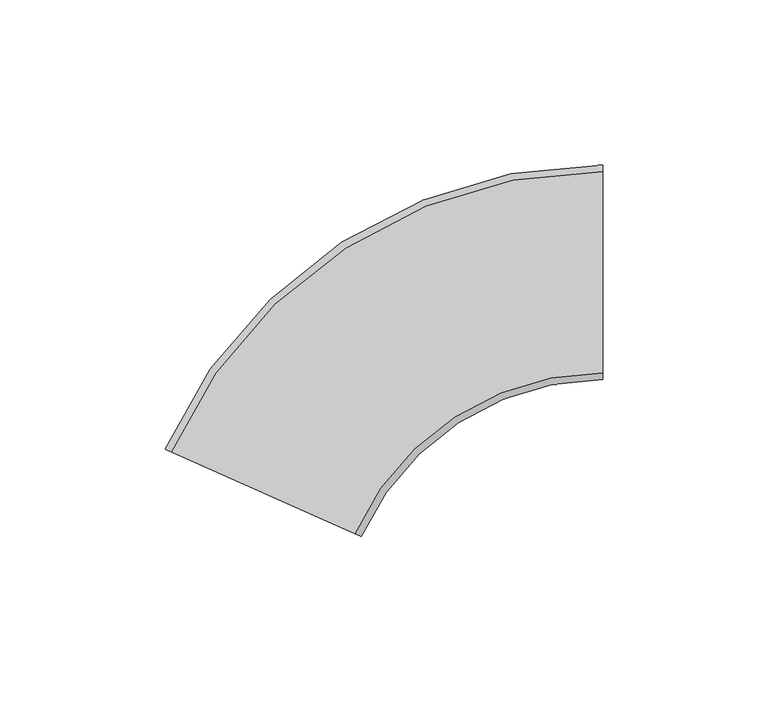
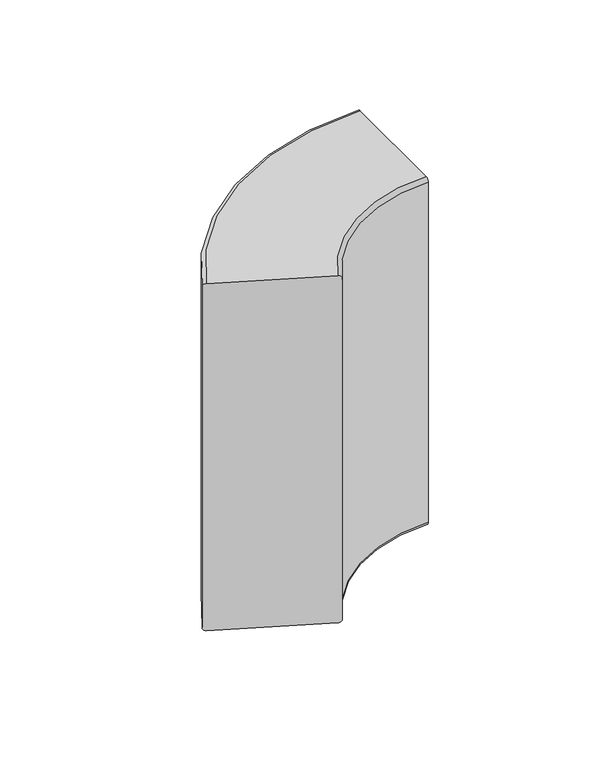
"""IFC4 building model written with IfcOpenShell, lengths in millimetres: duct fitting geometry, Угол внутренний 110 Белый : Угол Внутренний 110 Белый."""

import ifcopenshell
import ifcopenshell.guid

model = None  # the IFC model being written
_history = None  # IfcOwnerHistory: only IFC2X3 demands one
_inside = {}  # id of a spatial element -> (the spatial element, [elements in it])
_under = {}  # id of a project, library or spatial element -> (it, [spatial elements below it])
_declared = {}  # id of a project -> (the project, [libraries it declares])
_typed = {}  # id of a type object -> (the type object, [elements of that type])
_made_of = {}  # id of a material, layer set ... -> (it, [elements and type objects made of it])


def new_model(schema):
    """Start an empty IFC model of exactly this schema.

    Asked for "IFC4X3", IfcOpenShell would pick the latest addendum, in which some entities
    have other attributes; the version numbers below select the first issue.
    IFC2X3 requires an IfcOwnerHistory on every rooted entity: one is made here for all.
    """
    global model, _history
    if schema == "IFC4X3":
        model = ifcopenshell.file(schema_version=(4, 3, 0, 0))
    else:
        model = ifcopenshell.file(schema=schema)
    _inside.clear()
    _under.clear()
    _declared.clear()
    _typed.clear()
    _made_of.clear()
    _history = None
    if model.schema == "IFC2X3":
        org = make("IfcOrganization", Name="unknown")
        user = make(
            "IfcPersonAndOrganization",
            ThePerson=make("IfcPerson", FamilyName="unknown"),
            TheOrganization=org,
        )
        app = make(
            "IfcApplication",
            ApplicationDeveloper=org,
            Version="unknown",
            ApplicationFullName="unknown",
            ApplicationIdentifier="unknown",
        )
        _history = make(
            "IfcOwnerHistory",
            OwningUser=user,
            OwningApplication=app,
            ChangeAction="ADDED",
            CreationDate=0,
        )
    return model


def make(cls, **values):
    """One entity of the class cls with the attributes given. An attribute that is None is left unset."""
    return model.create_entity(
        cls, **{name: value for name, value in values.items() if value is not None}
    )


def rooted(cls, **values):
    """An entity with a GlobalId (a new one), such as an element, a storey or a relation."""
    return make(cls, GlobalId=ifcopenshell.guid.new(), OwnerHistory=_history, **values)


def si_unit(unit_type, name, prefix=None):
    """IfcSIUnit, for example si_unit("LENGTHUNIT", "METRE", prefix="MILLI")."""
    return make("IfcSIUnit", UnitType=unit_type, Prefix=prefix, Name=name)


def assignment(units):
    """IfcUnitAssignment: the units of a project."""
    return None if units is None else make("IfcUnitAssignment", Units=units)


def point(xyz):
    """IfcCartesianPoint."""
    return None if xyz is None else make("IfcCartesianPoint", Coordinates=xyz)


def direction(xyz):
    """IfcDirection."""
    return None if xyz is None else make("IfcDirection", DirectionRatios=xyz)


def frame(location, z_axis=None, x_axis=None):
    """IfcAxis2Placement3D, a coordinate frame: its origin and axes. An axis left out is left unset."""
    return make(
        "IfcAxis2Placement3D",
        Location=point(location),
        Axis=direction(z_axis),
        RefDirection=direction(x_axis),
    )


def origin():
    """The frame at (0, 0, 0) with its axes left unset."""
    return frame((0.0, 0.0, 0.0))


def place(relative_to, where):
    """IfcLocalPlacement: puts the frame where relative to a parent placement (None: the world)."""
    return make(
        "IfcLocalPlacement", PlacementRelTo=relative_to, RelativePlacement=where
    )


def context(
    kind, dimensions, precision=None, world=None, true_north=None, identifier=None
):
    """IfcGeometricRepresentationContext, for example the 3D "Model" context."""
    return make(
        "IfcGeometricRepresentationContext",
        ContextIdentifier=identifier,
        ContextType=kind,
        CoordinateSpaceDimension=dimensions,
        Precision=precision,
        WorldCoordinateSystem=world,
        TrueNorth=true_north,
    )


def project(units=None, contexts=None):
    """IfcProject with its units and contexts."""
    return rooted(
        "IfcProject",
        Name="project",
        RepresentationContexts=contexts,
        UnitsInContext=assignment(units),
    )


def spatial(cls, under=None, at=None, **own):
    """A site, building, storey or space (cls), placed at a placement, below another one or the project."""
    s = rooted(cls, ObjectPlacement=at, **own)
    if under is not None:
        _under.setdefault(under.id(), (under, []))[1].append(s)
    return s


def polyline(points):
    """IfcPolyline through the points."""
    return make("IfcPolyline", Points=[point(p) for p in points])


def circle_curve(where, radius):
    """IfcCircle in the frame where."""
    return make("IfcCircle", Position=where, Radius=radius)


def ellipse_curve(where, semi_axis1, semi_axis2):
    """IfcEllipse in the frame where."""
    return make(
        "IfcEllipse", Position=where, SemiAxis1=semi_axis1, SemiAxis2=semi_axis2
    )


def trimmed(basis, trim1, trim2, sense, master):
    """IfcTrimmedCurve: the piece of a basis curve between two trims."""
    return make(
        "IfcTrimmedCurve",
        BasisCurve=basis,
        Trim1=trim1,
        Trim2=trim2,
        SenseAgreement=sense,
        MasterRepresentation=master,
    )


def shape(context_of_items, identifier, shape_type, items):
    """IfcShapeRepresentation: the items that make up one representation, for example the "Body"."""
    return make(
        "IfcShapeRepresentation",
        ContextOfItems=context_of_items,
        RepresentationIdentifier=identifier,
        RepresentationType=shape_type,
        Items=items,
    )


def source(mapping_origin, context_of_items, identifier, shape_type, items):
    """IfcRepresentationMap: a shape defined once, which mapped items show again and again."""
    return make(
        "IfcRepresentationMap",
        MappingOrigin=mapping_origin,
        MappedRepresentation=shape(context_of_items, identifier, shape_type, items),
    )


def transform(
    local_origin,
    x_axis=None,
    y_axis=None,
    z_axis=None,
    scale=None,
    scale2=None,
    scale3=None,
    uniform=True,
):
    """IfcCartesianTransformationOperator3D, or its non-uniform kind. x_axis, y_axis, z_axis: its Axis1, 2, 3."""
    if uniform:
        return make(
            "IfcCartesianTransformationOperator3D",
            Axis1=direction(x_axis),
            Axis2=direction(y_axis),
            LocalOrigin=point(local_origin),
            Scale=scale,
            Axis3=direction(z_axis),
        )
    return make(
        "IfcCartesianTransformationOperator3DnonUniform",
        Axis1=direction(x_axis),
        Axis2=direction(y_axis),
        LocalOrigin=point(local_origin),
        Scale=scale,
        Axis3=direction(z_axis),
        Scale2=scale2,
        Scale3=scale3,
    )


def mapped(mapping_source, mapping_target):
    """IfcMappedItem: shows the shape of a source again, moved by a transform."""
    return make(
        "IfcMappedItem", MappingSource=mapping_source, MappingTarget=mapping_target
    )


def made_of(thing, what):
    """Note that an element or type object is made of a material, layer set ...; save() writes the relation."""
    if what is not None:
        _made_of.setdefault(what.id(), (what, []))[1].append(thing)
    return thing


def element(
    cls,
    number,
    at=None,
    inside=None,
    cuts=None,
    type_object=None,
    material=None,
    context=None,
    identifier="Body",
    shape_type=None,
    held_by="IfcProductDefinitionShape",
    body=None,
    shapes=None,
    **own,
):
    """One element of the class cls, such as IfcWall. Its Tag is "e" and its number.

    at: its placement. inside: the storey or other place that contains it. cuts: it is an
    opening in that element (IfcRelVoidsElement). A single representation is given by context,
    identifier, shape_type and body (its items); several are given by shapes. held_by: the class
    of the entity that holds the representations. save() writes the other relations.
    """
    e = rooted(cls, Tag="e%d" % number, ObjectPlacement=at, **own)
    if body is not None:
        shapes = [shape(context, identifier, shape_type, body)]
    if shapes is not None:
        e.Representation = make(held_by, Representations=shapes)
    if inside is not None:
        _inside.setdefault(inside.id(), (inside, []))[1].append(e)
    if cuts is not None:
        rooted(
            "IfcRelVoidsElement", RelatingBuildingElement=cuts, RelatedOpeningElement=e
        )
    if type_object is not None:
        _typed.setdefault(type_object.id(), (type_object, []))[1].append(e)
    return made_of(e, material)


def aggregate(whole, parts):
    """IfcRelAggregates: a whole, such as a stair, and the parts it consists of."""
    return rooted("IfcRelAggregates", RelatingObject=whole, RelatedObjects=parts)


def save(model, path):
    """Write the relations noted so far, then the file.

    IfcRelAggregates (storeys below a building ...), IfcRelContainedInSpatialStructure (elements
    in a storey), IfcRelDefinesByType, IfcRelAssociatesMaterial and IfcRelDeclares: one each for
    every whole, place, type object, material and project.
    """
    for whole, parts in _under.values():
        aggregate(whole, parts)
    for where, things in _inside.values():
        rooted(
            "IfcRelContainedInSpatialStructure",
            RelatedElements=things,
            RelatingStructure=where,
        )
    for kind, things in _typed.values():
        rooted("IfcRelDefinesByType", RelatedObjects=things, RelatingType=kind)
    for what, things in _made_of.values():
        rooted("IfcRelAssociatesMaterial", RelatedObjects=things, RelatingMaterial=what)
    for by, libraries in _declared.values():
        rooted("IfcRelDeclares", RelatingContext=by, RelatedDefinitions=libraries)
    model.write(path)


def plane_surface(at):
    """IfcPlane: the flat surface through the origin of the frame at, square to its z axis."""
    return make("IfcPlane", Position=at)


def cylinder_surface(at, radius):
    """IfcCylindricalSurface: all points at the distance radius from the z axis of the frame at."""
    return make("IfcCylindricalSurface", Position=at, Radius=radius)


def revolved_surface(curve, axis_point, axis_direction):
    """IfcSurfaceOfRevolution: the curve turned about the line through axis_point along axis_direction."""
    return make(
        "IfcSurfaceOfRevolution",
        SweptCurve=make("IfcArbitraryOpenProfileDef", ProfileType="CURVE", Curve=curve),
        AxisPosition=make("IfcAxis1Placement", Location=point(axis_point), Axis=direction(axis_direction)),
    )


def advanced_brep(points, edges, surfaces, faces):
    """IfcAdvancedBrep: a solid bounded by faces that lie on surfaces and meet in shared edges.

    An edge is (start, end): straight between two places in points (the first is 0);
    or (start, end, curve); or (start, end, curve, False) where it runs against its curve.
    A face is (place in surfaces, loops), or (place, loops, False) where it looks against
    its surface's normal. A loop lists edges by number (the first is 1), with a minus sign
    where the edge is run from its end to its start. The first loop is the outer one.
    """
    corners = [point(p) for p in points]
    vertices = [make("IfcVertexPoint", VertexGeometry=c) for c in corners]
    made = []
    for start, end, *more in edges:
        made.append(
            make(
                "IfcEdgeCurve",
                EdgeStart=vertices[start],
                EdgeEnd=vertices[end],
                EdgeGeometry=more[0] if more else make("IfcPolyline", Points=[corners[start], corners[end]]),
                SameSense=more[1] if len(more) > 1 else True,
            )
        )
    hull = []
    for where, loops, *sense in faces:
        bounds = []
        for j, loop in enumerate(loops):
            ring = [make("IfcOrientedEdge", EdgeElement=made[abs(k) - 1], Orientation=k > 0) for k in loop]
            bounds.append(
                make(
                    "IfcFaceOuterBound" if j == 0 else "IfcFaceBound",
                    Bound=make("IfcEdgeLoop", EdgeList=ring),
                    Orientation=True,
                )
            )
        hull.append(make("IfcAdvancedFace", Bounds=bounds, FaceSurface=surfaces[where], SameSense=sense[0] if sense else True))
    return make("IfcAdvancedBrep", Outer=make("IfcClosedShell", CfsFaces=hull))


def duct_fitting_2fd834d6(model_context):
    return source(origin(), model_context, "Body", "AdvancedBrep", [
        advanced_brep(
        [(-18.1370004, -100.0945324, 97.5), (-19.9640914, -99.2810591, 95.5), (-19.9640914, -99.2810591, -95.5), (-18.1370004, -100.0945324, -97.5), (37.5892725, -124.9054676, -97.5), (39.4163634, -125.7189409, -95.5), (39.4163634, -125.7189409, 95.5), (37.5892725, -124.9054676, 97.5), (112.5, -15.2578723, 97.5), (112.5, -76.2578723, 97.5), (112.5, -78.2578723, 95.5), (112.5, -78.2578723, -95.5), (112.5, -76.2578723, -97.5), (112.5, -15.2578723, -97.5), (112.5, -13.2578723, -95.5), (112.5, -13.2578723, 95.5)],
        [
            (0, 1, circle_curve(frame((-18.1370004, -100.0945324, 95.5), z_axis=(-0.40673664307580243, -0.9135454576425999, 0.0), x_axis=(-0.9135454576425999, 0.40673664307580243, 0.0)), 2.0)),
            (1, 2),
            (2, 3, circle_curve(frame((-18.1370004, -100.0945324, -95.5), z_axis=(-0.40673664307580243, -0.9135454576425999, 0.0), x_axis=(-0.9135454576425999, 0.40673664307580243, 0.0)), 2.0)),
            (3, 4),
            (4, 5, circle_curve(frame((37.5892725, -124.9054676, -95.5), z_axis=(-0.40673664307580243, -0.9135454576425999, 0.0), x_axis=(-0.9135454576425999, 0.40673664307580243, 0.0)), 2.0)),
            (5, 6),
            (6, 7, circle_curve(frame((37.5892725, -124.9054676, 95.5), z_axis=(-0.40673664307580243, -0.9135454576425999, 0.0), x_axis=(-0.9135454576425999, 0.40673664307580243, 0.0)), 2.0)),
            (7, 0),
            (8, 9),
            (9, 10, circle_curve(frame((112.5, -76.2578723, 95.5), z_axis=(1.0, 0.0, 0.0), x_axis=(0.0, 1.0, 0.0)), 2.0)),
            (10, 11),
            (11, 12, circle_curve(frame((112.5, -76.2578723, -95.5), z_axis=(1.0, 0.0, 0.0), x_axis=(0.0, 1.0, 0.0)), 2.0)),
            (12, 13),
            (13, 14, circle_curve(frame((112.5, -15.2578723, -95.5), z_axis=(1.0, 0.0, 0.0), x_axis=(0.0, 1.0, 0.0)), 2.0)),
            (14, 15),
            (15, 8, circle_curve(frame((112.5, -15.2578723, 95.5), z_axis=(1.0, 0.0, 0.0), x_axis=(0.0, 1.0, 0.0)), 2.0)),
            (15, 1, circle_curve(frame((112.5, -158.2578723, 95.5), z_axis=(0.0, 0.0, 1.0), x_axis=(-0.9135454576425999, 0.4067366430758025, 0.0)), 145.0)),
            (0, 8, circle_curve(frame((112.5, -158.2578723, 97.5), z_axis=(0.0, 0.0, -1.0), x_axis=(-0.9135454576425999, 0.4067366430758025, 0.0)), 143.0)),
            (14, 2, circle_curve(frame((112.5, -158.2578723, -95.5), z_axis=(0.0, 0.0, 1.0), x_axis=(-0.9135454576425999, 0.4067366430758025, 0.0)), 145.0)),
            (13, 3, circle_curve(frame((112.5, -158.2578723, -97.5), z_axis=(0.0, 0.0, 1.0), x_axis=(-0.9135454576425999, 0.4067366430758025, 0.0)), 143.0)),
            (12, 4, circle_curve(frame((112.5, -158.2578723, -97.5), z_axis=(0.0, 0.0, 1.0), x_axis=(-0.9135454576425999, 0.4067366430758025, 0.0)), 82.0)),
            (11, 5, circle_curve(frame((112.5, -158.2578723, -95.5), z_axis=(0.0, 0.0, 1.0), x_axis=(-0.9135454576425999, 0.4067366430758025, 0.0)), 80.0)),
            (10, 6, circle_curve(frame((112.5, -158.2578723, 95.5), z_axis=(0.0, 0.0, 1.0), x_axis=(-0.9135454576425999, 0.4067366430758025, 0.0)), 80.0)),
            (9, 7, circle_curve(frame((112.5, -158.2578723, 97.5), z_axis=(0.0, 0.0, 1.0), x_axis=(-0.9135454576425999, 0.4067366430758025, 0.0)), 82.0)),
        ],
        [
            plane_surface(frame((9.726136, -112.5, 0.0), z_axis=(-0.40673664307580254, -0.9135454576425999, 0.0), x_axis=(0.0, 0.0, 1.0))),
            plane_surface(frame((112.5, -45.7578723, 0.0), z_axis=(1.0, 0.0, 0.0), x_axis=(0.0, 0.0, 1.0))),
            revolved_surface(trimmed(ellipse_curve(frame((-18.1370004, -100.0945324, 95.5), z_axis=(-0.40673664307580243, -0.9135454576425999, 0.0), x_axis=(-0.9135454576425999, 0.40673664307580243, 0.0)), 2.0, 2.0), [point((-18.1370004, -100.0945324, 97.5))], [point((-19.9640914, -99.2810591, 95.5))], True, "CARTESIAN"), (112.5, -158.2578723, 0.0), (0.0, 0.0, -1.0)),
            cylinder_surface(frame((112.5, -158.2578723, 0.0), z_axis=(0.0, 0.0, -1.0), x_axis=(-0.9135454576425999, 0.4067366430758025, 0.0)), 145.0),
            revolved_surface(trimmed(ellipse_curve(frame((-18.1370004, -100.0945324, -95.5), z_axis=(-0.40673664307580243, -0.9135454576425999, 0.0), x_axis=(-0.9135454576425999, 0.40673664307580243, 0.0)), 2.0, 2.0), [point((-19.9640914, -99.2810591, -95.5))], [point((-18.1370004, -100.0945324, -97.5))], True, "CARTESIAN"), (112.5, -158.2578723, 0.0), (0.0, 0.0, -1.0)),
            plane_surface(frame((112.5, -158.2578723, -97.5), z_axis=(0.0, 0.0, -1.0), x_axis=(-0.9135454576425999, 0.4067366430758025, 0.0))),
            revolved_surface(trimmed(ellipse_curve(frame((37.5892725, -124.9054676, -95.5), z_axis=(-0.40673664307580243, -0.9135454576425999, 0.0), x_axis=(-0.9135454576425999, 0.40673664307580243, 0.0)), 2.0, 2.0), [point((37.5892725, -124.9054676, -97.5))], [point((39.4163634, -125.7189409, -95.5))], True, "CARTESIAN"), (112.5, -158.2578723, 0.0), (0.0, 0.0, -1.0)),
            revolved_surface(polyline([(39.416363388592, -125.7189408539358, -95.5), (39.416363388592, -125.7189408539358, 95.5)]), (112.5, -158.2578723, 0.0), (0.0, 0.0, -1.0)),
            revolved_surface(trimmed(ellipse_curve(frame((37.5892725, -124.9054676, 95.5), z_axis=(-0.40673664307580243, -0.9135454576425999, 0.0), x_axis=(-0.9135454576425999, 0.40673664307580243, 0.0)), 2.0, 2.0), [point((39.4163634, -125.7189409, 95.5))], [point((37.5892725, -124.9054676, 97.5))], True, "CARTESIAN"), (112.5, -158.2578723, 0.0), (0.0, 0.0, -1.0)),
            plane_surface(frame((112.5, -158.2578723, 97.5), z_axis=(0.0, 0.0, 1.0), x_axis=(-0.9135454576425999, 0.4067366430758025, 0.0))),
        ],
        [
            (0, [[1, 2, 3, 4, 5, 6, 7, 8]]),
            (1, [[9, 10, 11, 12, 13, 14, 15, 16]]),
            (2, [[17, -1, 18, -16]]),
            (3, [[19, -2, -17, -15]]),
            (4, [[20, -3, -19, -14]]),
            (5, [[21, -4, -20, -13]]),
            (6, [[22, -5, -21, -12]]),
            (7, [[23, -6, -22, -11]]),
            (8, [[24, -7, -23, -10]]),
            (9, [[-18, -8, -24, -9]]),
        ],
    ),
    ])


if __name__ == "__main__":
    model = new_model("IFC4")
    model_context = context("Model", 3, world=origin())
    ifc_project = project(units=[si_unit("LENGTHUNIT", "METRE", prefix="MILLI")], contexts=[model_context])
    site = spatial("IfcSite", under=ifc_project)
    building = spatial("IfcBuilding", under=site)
    placement = place(None, origin())
    duct_fitting_shape = duct_fitting_2fd834d6(model_context)
    element("IfcDuctFitting", 1, ObjectType="Угол внутренний 110 Белый : Угол Внутренний 110 Белый", at=placement, inside=building, context=model_context, shape_type="MappedRepresentation", body=[
        mapped(duct_fitting_shape, transform((0.0, 0.0, 0.0), x_axis=(1.0, 0.0, 0.0), y_axis=(0.0, 1.0, 0.0), z_axis=(0.0, 0.0, 1.0))),
    ])
    save(model, "model.ifc")
